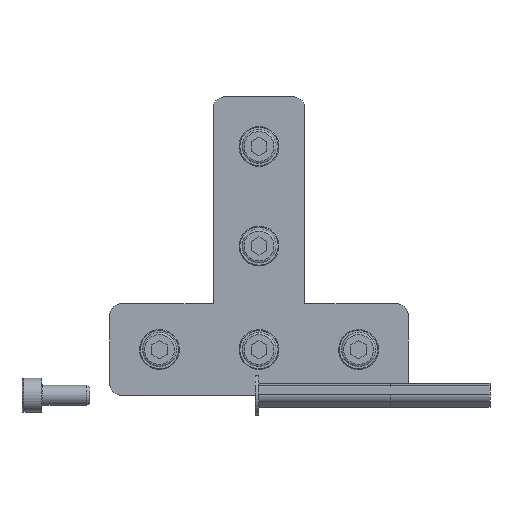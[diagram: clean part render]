
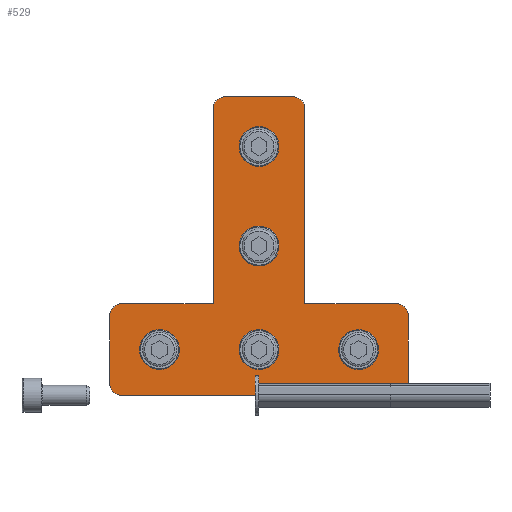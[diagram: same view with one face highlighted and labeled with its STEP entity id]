
A CAD part, front view. The second image highlights one B-rep face of the part: STEP entity #529.
In plain terms, the highlighted planar face has unit normal (0, -1, 0).
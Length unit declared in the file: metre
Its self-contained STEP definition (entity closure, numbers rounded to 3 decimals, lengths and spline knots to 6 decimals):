
#529 = ADVANCED_FACE( '', ( #943, #944, #945, #946, #947, #948 ), #949, .T. );
#943 = FACE_BOUND( '', #1322, .T. );
#944 = FACE_BOUND( '', #1323, .T. );
#945 = FACE_BOUND( '', #1324, .T. );
#946 = FACE_BOUND( '', #1325, .T. );
#947 = FACE_BOUND( '', #1326, .T. );
#948 = FACE_OUTER_BOUND( '', #1327, .T. );
#949 = PLANE( '', #1328 );
#1322 = EDGE_LOOP( '', ( #2387 ) );
#1323 = EDGE_LOOP( '', ( #2388 ) );
#1324 = EDGE_LOOP( '', ( #2389 ) );
#1325 = EDGE_LOOP( '', ( #2390 ) );
#1326 = EDGE_LOOP( '', ( #2391 ) );
#1327 = EDGE_LOOP( '', ( #2392, #2393, #2394, #2395, #2396, #2397, #2398, #2399, #2400, #2401, #2402, #2403, #2404, #2405 ) );
#1328 = AXIS2_PLACEMENT_3D( '', #2406, #2407, #2408 );
#2387 = ORIENTED_EDGE( '', *, *, #2909, .F. );
#2388 = ORIENTED_EDGE( '', *, *, #2910, .F. );
#2389 = ORIENTED_EDGE( '', *, *, #2911, .F. );
#2390 = ORIENTED_EDGE( '', *, *, #2912, .F. );
#2391 = ORIENTED_EDGE( '', *, *, #2913, .F. );
#2392 = ORIENTED_EDGE( '', *, *, #2882, .T. );
#2393 = ORIENTED_EDGE( '', *, *, #2886, .T. );
#2394 = ORIENTED_EDGE( '', *, *, #2914, .T. );
#2395 = ORIENTED_EDGE( '', *, *, #2915, .T. );
#2396 = ORIENTED_EDGE( '', *, *, #2916, .T. );
#2397 = ORIENTED_EDGE( '', *, *, #2917, .T. );
#2398 = ORIENTED_EDGE( '', *, *, #2887, .T. );
#2399 = ORIENTED_EDGE( '', *, *, #2893, .T. );
#2400 = ORIENTED_EDGE( '', *, *, #2918, .T. );
#2401 = ORIENTED_EDGE( '', *, *, #2919, .T. );
#2402 = ORIENTED_EDGE( '', *, *, #2920, .T. );
#2403 = ORIENTED_EDGE( '', *, *, #2921, .T. );
#2404 = ORIENTED_EDGE( '', *, *, #2922, .T. );
#2405 = ORIENTED_EDGE( '', *, *, #2923, .T. );
#2406 = CARTESIAN_POINT( '', ( -0.0375, 0., 0. ) );
#2407 = DIRECTION( '', ( 0., -1., 0. ) );
#2408 = DIRECTION( '', ( 0., 0., -1. ) );
#2882 = EDGE_CURVE( '', #3447, #3445, #3448, .T. );
#2886 = EDGE_CURVE( '', #3445, #3452, #3454, .T. );
#2887 = EDGE_CURVE( '', #3455, #3456, #3457, .T. );
#2893 = EDGE_CURVE( '', #3456, #3465, #3467, .T. );
#2909 = EDGE_CURVE( '', #3496, #3496, #3497, .T. );
#2910 = EDGE_CURVE( '', #3498, #3498, #3499, .T. );
#2911 = EDGE_CURVE( '', #3500, #3500, #3501, .T. );
#2912 = EDGE_CURVE( '', #3502, #3502, #3503, .T. );
#2913 = EDGE_CURVE( '', #3504, #3504, #3505, .T. );
#2914 = EDGE_CURVE( '', #3452, #3506, #3507, .T. );
#2915 = EDGE_CURVE( '', #3506, #3508, #3509, .T. );
#2916 = EDGE_CURVE( '', #3508, #3510, #3511, .T. );
#2917 = EDGE_CURVE( '', #3510, #3455, #3512, .T. );
#2918 = EDGE_CURVE( '', #3465, #3513, #3514, .T. );
#2919 = EDGE_CURVE( '', #3513, #3515, #3516, .T. );
#2920 = EDGE_CURVE( '', #3515, #3517, #3518, .T. );
#2921 = EDGE_CURVE( '', #3517, #3519, #3520, .T. );
#2922 = EDGE_CURVE( '', #3519, #3521, #3522, .T. );
#2923 = EDGE_CURVE( '', #3521, #3447, #3523, .T. );
#3445 = VERTEX_POINT( '', #4366 );
#3447 = VERTEX_POINT( '', #4369 );
#3448 = LINE( '', #4370, #4371 );
#3452 = VERTEX_POINT( '', #4376 );
#3454 = CIRCLE( '', #4379, 0.003 );
#3455 = VERTEX_POINT( '', #4380 );
#3456 = VERTEX_POINT( '', #4381 );
#3457 = LINE( '', #4382, #4383 );
#3465 = VERTEX_POINT( '', #4395 );
#3467 = LINE( '', #4398, #4399 );
#3496 = VERTEX_POINT( '', #4433 );
#3497 = CIRCLE( '', #4434, 0.0026 );
#3498 = VERTEX_POINT( '', #4435 );
#3499 = CIRCLE( '', #4436, 0.0026 );
#3500 = VERTEX_POINT( '', #4437 );
#3501 = CIRCLE( '', #4438, 0.0026 );
#3502 = VERTEX_POINT( '', #4439 );
#3503 = CIRCLE( '', #4440, 0.0026 );
#3504 = VERTEX_POINT( '', #4441 );
#3505 = CIRCLE( '', #4442, 0.0026 );
#3506 = VERTEX_POINT( '', #4443 );
#3507 = LINE( '', #4444, #4445 );
#3508 = VERTEX_POINT( '', #4446 );
#3509 = CIRCLE( '', #4447, 0.003 );
#3510 = VERTEX_POINT( '', #4448 );
#3511 = LINE( '', #4449, #4450 );
#3512 = CIRCLE( '', #4451, 0.003 );
#3513 = VERTEX_POINT( '', #4452 );
#3514 = CIRCLE( '', #4453, 0.003 );
#3515 = VERTEX_POINT( '', #4454 );
#3516 = LINE( '', #4455, #4456 );
#3517 = VERTEX_POINT( '', #4457 );
#3518 = CIRCLE( '', #4458, 0.003 );
#3519 = VERTEX_POINT( '', #4459 );
#3520 = LINE( '', #4460, #4461 );
#3521 = VERTEX_POINT( '', #4462 );
#3522 = LINE( '', #4463, #4464 );
#3523 = CIRCLE( '', #4465, 0.003 );
#4366 = CARTESIAN_POINT( '', ( -0.0375, 0., 0.003 ) );
#4369 = CARTESIAN_POINT( '', ( -0.0375, 0., 0.02 ) );
#4370 = CARTESIAN_POINT( '', ( -0.0375, 0., 0.023 ) );
#4371 = VECTOR( '', #4908, 1. );
#4376 = CARTESIAN_POINT( '', ( -0.0345, 0., 0. ) );
#4379 = AXIS2_PLACEMENT_3D( '', #4914, #4915, #4916 );
#4380 = CARTESIAN_POINT( '', ( 0.0345, 0., 0.023 ) );
#4381 = CARTESIAN_POINT( '', ( 0.0115, 0., 0.023 ) );
#4382 = CARTESIAN_POINT( '', ( 0.0375, 0., 0.023 ) );
#4383 = VECTOR( '', #4917, 1. );
#4395 = CARTESIAN_POINT( '', ( 0.0115, 0., 0.072 ) );
#4398 = CARTESIAN_POINT( '', ( 0.0115, 0., 0.023 ) );
#4399 = VECTOR( '', #4923, 1. );
#4433 = CARTESIAN_POINT( '', ( -0.0224, 0., 0.0115 ) );
#4434 = AXIS2_PLACEMENT_3D( '', #4959, #4960, #4961 );
#4435 = CARTESIAN_POINT( '', ( 0.0026, 0., 0.0625 ) );
#4436 = AXIS2_PLACEMENT_3D( '', #4962, #4963, #4964 );
#4437 = CARTESIAN_POINT( '', ( 0.0026, 0., 0.0375 ) );
#4438 = AXIS2_PLACEMENT_3D( '', #4965, #4966, #4967 );
#4439 = CARTESIAN_POINT( '', ( 0.0276, 0., 0.0115 ) );
#4440 = AXIS2_PLACEMENT_3D( '', #4968, #4969, #4970 );
#4441 = CARTESIAN_POINT( '', ( 0.0026, 0., 0.0115 ) );
#4442 = AXIS2_PLACEMENT_3D( '', #4971, #4972, #4973 );
#4443 = CARTESIAN_POINT( '', ( 0.0345, 0., 0. ) );
#4444 = CARTESIAN_POINT( '', ( -0.0375, 0., 0. ) );
#4445 = VECTOR( '', #4974, 1. );
#4446 = CARTESIAN_POINT( '', ( 0.0375, 0., 0.003 ) );
#4447 = AXIS2_PLACEMENT_3D( '', #4975, #4976, #4977 );
#4448 = CARTESIAN_POINT( '', ( 0.0375, 0., 0.02 ) );
#4449 = CARTESIAN_POINT( '', ( 0.0375, 0., 0. ) );
#4450 = VECTOR( '', #4978, 1. );
#4451 = AXIS2_PLACEMENT_3D( '', #4979, #4980, #4981 );
#4452 = CARTESIAN_POINT( '', ( 0.0085, 0., 0.075 ) );
#4453 = AXIS2_PLACEMENT_3D( '', #4982, #4983, #4984 );
#4454 = CARTESIAN_POINT( '', ( -0.0085, 0., 0.075 ) );
#4455 = CARTESIAN_POINT( '', ( 0.0115, 0., 0.075 ) );
#4456 = VECTOR( '', #4985, 1. );
#4457 = CARTESIAN_POINT( '', ( -0.0115, 0., 0.072 ) );
#4458 = AXIS2_PLACEMENT_3D( '', #4986, #4987, #4988 );
#4459 = CARTESIAN_POINT( '', ( -0.0115, 0., 0.023 ) );
#4460 = CARTESIAN_POINT( '', ( -0.0115, 0., 0.075 ) );
#4461 = VECTOR( '', #4989, 1. );
#4462 = CARTESIAN_POINT( '', ( -0.0345, 0., 0.023 ) );
#4463 = CARTESIAN_POINT( '', ( -0.0115, 0., 0.023 ) );
#4464 = VECTOR( '', #4990, 1. );
#4465 = AXIS2_PLACEMENT_3D( '', #4991, #4992, #4993 );
#4908 = DIRECTION( '', ( 0., 0., -1. ) );
#4914 = CARTESIAN_POINT( '', ( -0.0345, 0., 0.003 ) );
#4915 = DIRECTION( '', ( 0., -1., 0. ) );
#4916 = DIRECTION( '', ( 0., 0., -1. ) );
#4917 = DIRECTION( '', ( -1., 0., 0. ) );
#4923 = DIRECTION( '', ( 0., 0., 1. ) );
#4959 = CARTESIAN_POINT( '', ( -0.025, 0., 0.0115 ) );
#4960 = DIRECTION( '', ( 0., -1., 0. ) );
#4961 = DIRECTION( '', ( 1., 0., 0. ) );
#4962 = CARTESIAN_POINT( '', ( 0., 0., 0.0625 ) );
#4963 = DIRECTION( '', ( 0., -1., 0. ) );
#4964 = DIRECTION( '', ( 1., 0., 0. ) );
#4965 = CARTESIAN_POINT( '', ( 0., 0., 0.0375 ) );
#4966 = DIRECTION( '', ( 0., -1., 0. ) );
#4967 = DIRECTION( '', ( 1., 0., 0. ) );
#4968 = CARTESIAN_POINT( '', ( 0.025, 0., 0.0115 ) );
#4969 = DIRECTION( '', ( 0., -1., 0. ) );
#4970 = DIRECTION( '', ( 1., 0., 0. ) );
#4971 = CARTESIAN_POINT( '', ( 0., 0., 0.0115 ) );
#4972 = DIRECTION( '', ( 0., -1., 0. ) );
#4973 = DIRECTION( '', ( 1., 0., 0. ) );
#4974 = DIRECTION( '', ( 1., 0., 0. ) );
#4975 = CARTESIAN_POINT( '', ( 0.0345, 0., 0.003 ) );
#4976 = DIRECTION( '', ( 0., -1., 0. ) );
#4977 = DIRECTION( '', ( 0., 0., -1. ) );
#4978 = DIRECTION( '', ( 0., 0., 1. ) );
#4979 = CARTESIAN_POINT( '', ( 0.0345, 0., 0.02 ) );
#4980 = DIRECTION( '', ( 0., -1., 0. ) );
#4981 = DIRECTION( '', ( 0., 0., -1. ) );
#4982 = CARTESIAN_POINT( '', ( 0.0085, 0., 0.072 ) );
#4983 = DIRECTION( '', ( 0., -1., 0. ) );
#4984 = DIRECTION( '', ( 0., 0., -1. ) );
#4985 = DIRECTION( '', ( -1., 0., 0. ) );
#4986 = CARTESIAN_POINT( '', ( -0.0085, 0., 0.072 ) );
#4987 = DIRECTION( '', ( 0., -1., 0. ) );
#4988 = DIRECTION( '', ( 0., 0., -1. ) );
#4989 = DIRECTION( '', ( 0., 0., -1. ) );
#4990 = DIRECTION( '', ( -1., 0., 0. ) );
#4991 = CARTESIAN_POINT( '', ( -0.0345, 0., 0.02 ) );
#4992 = DIRECTION( '', ( 0., -1., 0. ) );
#4993 = DIRECTION( '', ( 0., 0., -1. ) );
